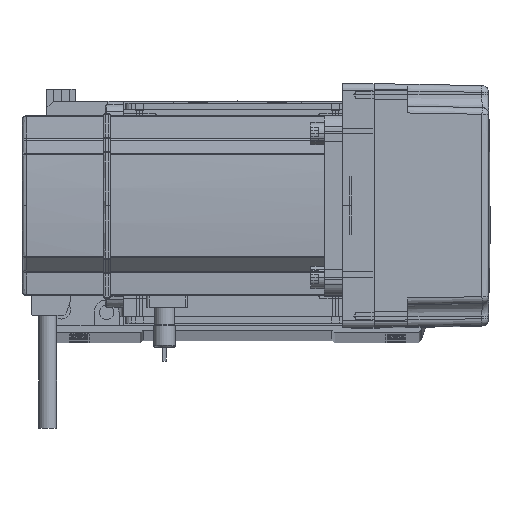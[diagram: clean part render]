
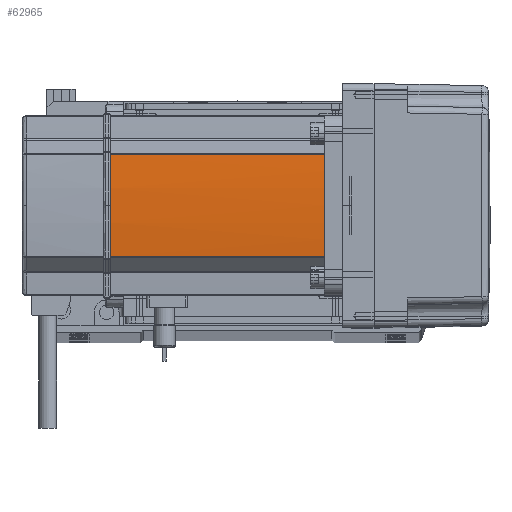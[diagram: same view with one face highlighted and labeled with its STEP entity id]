
A CAD part, top view. The second image highlights one B-rep face of the part: STEP entity #62965.
In plain terms, the highlighted cylindrical face has radius 270 mm (diameter 540 mm), a partial arc.
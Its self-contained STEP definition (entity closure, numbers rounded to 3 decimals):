
#2163 = ORIENTED_EDGE ( 'NONE', *, *, #22825, .F. ) ;
#3723 = VERTEX_POINT ( 'NONE', #36045 ) ;
#5800 = DIRECTION ( 'NONE',  ( 0., 0., -1. ) ) ;
#6921 = LINE ( 'NONE', #30295, #19336 ) ;
#7351 = AXIS2_PLACEMENT_3D ( 'NONE', #37538, #58761, #63104 ) ;
#9238 = VECTOR ( 'NONE', #45401, 1000. ) ;
#10127 = ORIENTED_EDGE ( 'NONE', *, *, #48075, .T. ) ;
#10933 = EDGE_CURVE ( 'NONE', #62621, #3723, #38675, .T. ) ;
#12942 = CARTESIAN_POINT ( 'NONE',  ( -39.042, -22.724, 134. ) ) ;
#13049 = DIRECTION ( 'NONE',  ( 0., 0., -1. ) ) ;
#16183 = ORIENTED_EDGE ( 'NONE', *, *, #38466, .T. ) ;
#18408 = CIRCLE ( 'NONE', #7351, 270. ) ;
#19336 = VECTOR ( 'NONE', #5800, 1000. ) ;
#22618 = AXIS2_PLACEMENT_3D ( 'NONE', #58004, #28255, #53421 ) ;
#22825 = EDGE_CURVE ( 'NONE', #25406, #61185, #18408, .T. ) ;
#23646 = DIRECTION ( 'NONE',  ( 1., 0., 0. ) ) ;
#24727 = LINE ( 'NONE', #36041, #9238 ) ;
#25337 = EDGE_LOOP ( 'NONE', ( #49801, #10127, #37754, #2163, #16183 ) ) ;
#25406 = VERTEX_POINT ( 'NONE', #59313 ) ;
#28153 = CARTESIAN_POINT ( 'NONE',  ( -39.042, 22.724, 134. ) ) ;
#28255 = DIRECTION ( 'NONE',  ( 0., 0., -1. ) ) ;
#30295 = CARTESIAN_POINT ( 'NONE',  ( -39.042, 22.724, 0. ) ) ;
#32715 = EDGE_CURVE ( 'NONE', #33204, #61185, #6921, .T. ) ;
#33204 = VERTEX_POINT ( 'NONE', #28153 ) ;
#35628 = CARTESIAN_POINT ( 'NONE',  ( -39.042, 22.724, 39. ) ) ;
#36021 = DIRECTION ( 'NONE',  ( 0., 0., 1. ) ) ;
#36041 = CARTESIAN_POINT ( 'NONE',  ( -39.042, -22.724, 0. ) ) ;
#36045 = CARTESIAN_POINT ( 'NONE',  ( -40., 0., 134. ) ) ;
#37538 = CARTESIAN_POINT ( 'NONE',  ( 230., 0., 39. ) ) ;
#37754 = ORIENTED_EDGE ( 'NONE', *, *, #32715, .T. ) ;
#38466 = EDGE_CURVE ( 'NONE', #25406, #62621, #24727, .T. ) ;
#38675 = CIRCLE ( 'NONE', #54639, 270. ) ;
#41457 = CARTESIAN_POINT ( 'NONE',  ( 230., 0., 0. ) ) ;
#41682 = DIRECTION ( 'NONE',  ( 1., 0., 0. ) ) ;
#42836 = CARTESIAN_POINT ( 'NONE',  ( 230., 0., 134. ) ) ;
#43787 = CYLINDRICAL_SURFACE ( 'NONE', #63814, 270. ) ;
#45401 = DIRECTION ( 'NONE',  ( 0., 0., 1. ) ) ;
#48075 = EDGE_CURVE ( 'NONE', #3723, #33204, #52302, .T. ) ;
#49801 = ORIENTED_EDGE ( 'NONE', *, *, #10933, .T. ) ;
#52302 = CIRCLE ( 'NONE', #22618, 270. ) ;
#53421 = DIRECTION ( 'NONE',  ( 1., 0., 0. ) ) ;
#54639 = AXIS2_PLACEMENT_3D ( 'NONE', #42836, #13049, #23646 ) ;
#58004 = CARTESIAN_POINT ( 'NONE',  ( 230., 0., 134. ) ) ;
#58761 = DIRECTION ( 'NONE',  ( 0., 0., -1. ) ) ;
#59251 = FACE_OUTER_BOUND ( 'NONE', #25337, .T. ) ;
#59313 = CARTESIAN_POINT ( 'NONE',  ( -39.042, -22.724, 39. ) ) ;
#61185 = VERTEX_POINT ( 'NONE', #35628 ) ;
#62621 = VERTEX_POINT ( 'NONE', #12942 ) ;
#62965 = ADVANCED_FACE ( 'NONE', ( #59251 ), #43787, .T. ) ;
#63104 = DIRECTION ( 'NONE',  ( 1., 0., 0. ) ) ;
#63814 = AXIS2_PLACEMENT_3D ( 'NONE', #41457, #36021, #41682 ) ;
